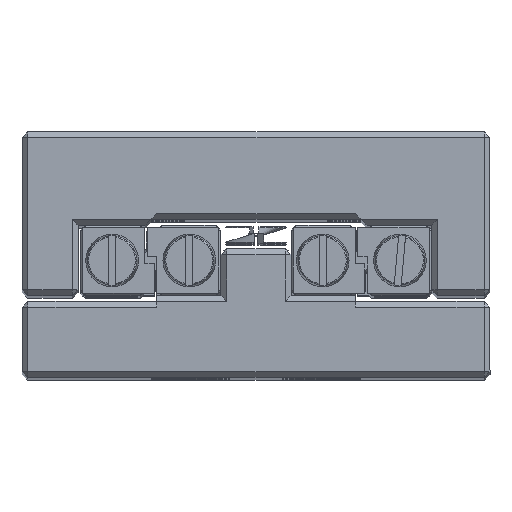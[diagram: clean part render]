
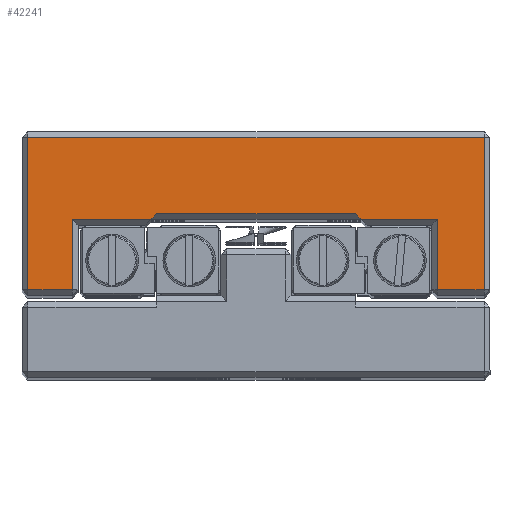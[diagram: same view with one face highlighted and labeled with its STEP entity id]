
A CAD part, top view. The second image highlights one B-rep face of the part: STEP entity #42241.
In plain terms, the highlighted planar face has unit normal (0, 0, 1).
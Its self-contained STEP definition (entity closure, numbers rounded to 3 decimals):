
#2700=PLANE('',#45828);
#4838=FACE_OUTER_BOUND('',#7403,.T.);
#7403=EDGE_LOOP('',(#35683,#35684,#35685,#35686,#35687,#35688,#35689,#35690,
#35691,#35692,#35693,#35694));
#10878=LINE('',#69353,#14495);
#10894=LINE('',#69379,#14511);
#10905=LINE('',#69396,#14522);
#10908=LINE('',#69401,#14525);
#10912=LINE('',#69410,#14529);
#10915=LINE('',#69419,#14532);
#10916=LINE('',#69425,#14533);
#10920=LINE('',#69435,#14537);
#10930=LINE('',#69459,#14547);
#10932=LINE('',#69463,#14549);
#10933=LINE('',#69464,#14550);
#10934=LINE('',#69465,#14551);
#14495=VECTOR('',#55186,10.);
#14511=VECTOR('',#55212,10.);
#14522=VECTOR('',#55231,10.);
#14525=VECTOR('',#55236,10.);
#14529=VECTOR('',#55248,10.);
#14532=VECTOR('',#55261,10.);
#14533=VECTOR('',#55270,10.);
#14537=VECTOR('',#55280,10.);
#14547=VECTOR('',#55300,10.);
#14549=VECTOR('',#55304,10.);
#14550=VECTOR('',#55305,10.);
#14551=VECTOR('',#55306,10.);
#19800=VERTEX_POINT('',#69350);
#19801=VERTEX_POINT('',#69352);
#19806=VERTEX_POINT('',#69377);
#19808=VERTEX_POINT('',#69394);
#19809=VERTEX_POINT('',#69399);
#19810=VERTEX_POINT('',#69408);
#19811=VERTEX_POINT('',#69417);
#19812=VERTEX_POINT('',#69424);
#19814=VERTEX_POINT('',#69432);
#19815=VERTEX_POINT('',#69434);
#19824=VERTEX_POINT('',#69457);
#19825=VERTEX_POINT('',#69462);
#25254=EDGE_CURVE('',#19800,#19801,#10878,.T.);
#25270=EDGE_CURVE('',#19806,#19800,#10894,.T.);
#25281=EDGE_CURVE('',#19808,#19806,#10905,.T.);
#25284=EDGE_CURVE('',#19809,#19808,#10908,.T.);
#25288=EDGE_CURVE('',#19810,#19809,#10912,.T.);
#25291=EDGE_CURVE('',#19811,#19810,#10915,.T.);
#25292=EDGE_CURVE('',#19812,#19811,#10916,.T.);
#25296=EDGE_CURVE('',#19814,#19815,#10920,.T.);
#25308=EDGE_CURVE('',#19824,#19812,#10930,.T.);
#25310=EDGE_CURVE('',#19801,#19825,#10932,.T.);
#25311=EDGE_CURVE('',#19815,#19824,#10933,.T.);
#25312=EDGE_CURVE('',#19825,#19814,#10934,.T.);
#35683=ORIENTED_EDGE('',*,*,#25310,.F.);
#35684=ORIENTED_EDGE('',*,*,#25254,.F.);
#35685=ORIENTED_EDGE('',*,*,#25270,.F.);
#35686=ORIENTED_EDGE('',*,*,#25281,.F.);
#35687=ORIENTED_EDGE('',*,*,#25284,.F.);
#35688=ORIENTED_EDGE('',*,*,#25288,.F.);
#35689=ORIENTED_EDGE('',*,*,#25291,.F.);
#35690=ORIENTED_EDGE('',*,*,#25292,.F.);
#35691=ORIENTED_EDGE('',*,*,#25308,.F.);
#35692=ORIENTED_EDGE('',*,*,#25311,.F.);
#35693=ORIENTED_EDGE('',*,*,#25296,.F.);
#35694=ORIENTED_EDGE('',*,*,#25312,.F.);
#42241=ADVANCED_FACE('',(#4838),#2700,.F.);
#45828=AXIS2_PLACEMENT_3D('',#69461,#55302,#55303);
#55186=DIRECTION('',(0.,1.,0.));
#55212=DIRECTION('',(-1.,0.,0.));
#55231=DIRECTION('',(0.,-1.,0.));
#55236=DIRECTION('',(1.,0.,0.));
#55248=DIRECTION('',(0.,1.,0.));
#55261=DIRECTION('',(-1.,0.,0.));
#55270=DIRECTION('',(0.,-1.,0.));
#55280=DIRECTION('',(-1.,0.,0.));
#55300=DIRECTION('',(-1.,0.,0.));
#55302=DIRECTION('center_axis',(0.,0.,
-1.));
#55303=DIRECTION('ref_axis',(-1.,0.,0.));
#55304=DIRECTION('',(-1.,0.,0.));
#55305=DIRECTION('',(-0.707,-0.707,0.));
#55306=DIRECTION('',(-0.707,0.707,0.));
#69350=CARTESIAN_POINT('',(-18.197,7.5,35.));
#69352=CARTESIAN_POINT('',(-18.197,13.5,35.));
#69353=CARTESIAN_POINT('',(-18.197,10.5,35.));
#69377=CARTESIAN_POINT('',(-14.197,7.5,35.));
#69379=CARTESIAN_POINT('',(-23.697,7.5,35.));
#69394=CARTESIAN_POINT('',(-14.197,20.5,35.));
#69396=CARTESIAN_POINT('',(-14.197,17.5,35.));
#69399=CARTESIAN_POINT('',(-53.197,20.5,35.));
#69401=CARTESIAN_POINT('',(-43.697,20.5,35.));
#69408=CARTESIAN_POINT('',(-53.197,7.5,35.));
#69410=CARTESIAN_POINT('',(-53.197,10.5,35.));
#69417=CARTESIAN_POINT('',(-49.397,7.5,35.));
#69419=CARTESIAN_POINT('',(-41.297,7.5,35.));
#69424=CARTESIAN_POINT('',(-49.397,13.5,35.));
#69425=CARTESIAN_POINT('',(-49.397,13.5,35.));
#69432=CARTESIAN_POINT('',(-25.197,14.,35.));
#69434=CARTESIAN_POINT('',(-42.197,14.,35.));
#69435=CARTESIAN_POINT('',(-29.197,14.,35.));
#69457=CARTESIAN_POINT('',(-42.697,13.5,35.));
#69459=CARTESIAN_POINT('',(-38.447,13.5,35.));
#69461=CARTESIAN_POINT('Origin',(-33.697,14.,35.));
#69462=CARTESIAN_POINT('',(-24.697,13.5,35.));
#69463=CARTESIAN_POINT('',(-26.197,13.5,35.));
#69464=CARTESIAN_POINT('',(-42.697,13.5,35.));
#69465=CARTESIAN_POINT('',(-24.197,13.,35.));
